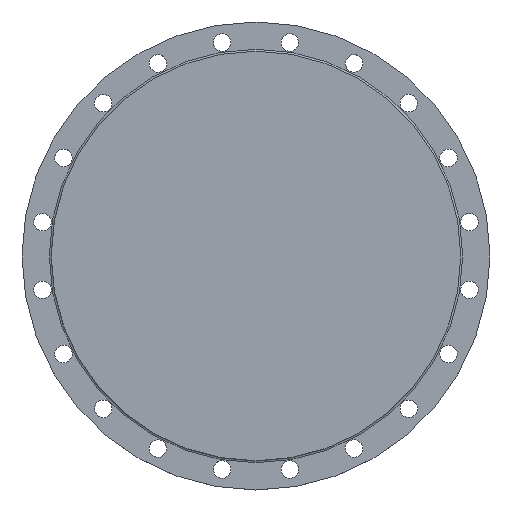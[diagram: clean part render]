
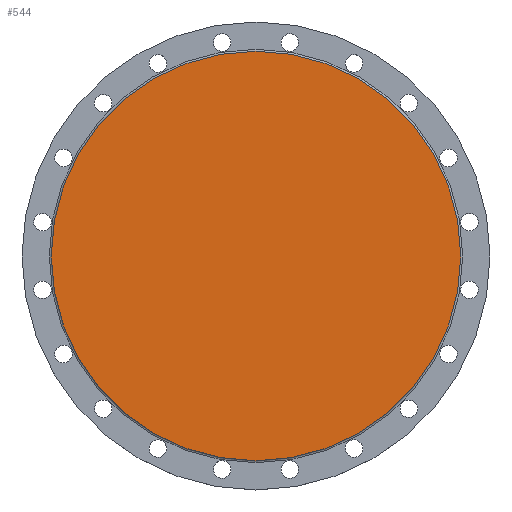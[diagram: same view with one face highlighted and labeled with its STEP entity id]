
A CAD part, top view. The second image highlights one B-rep face of the part: STEP entity #544.
In plain terms, the highlighted planar face has unit normal (0, 0, 1).
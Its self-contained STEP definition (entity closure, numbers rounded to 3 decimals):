
#120=PLANE('',#638);
#145=FACE_OUTER_BOUND('',#191,.T.);
#191=EDGE_LOOP('',(#496,#497));
#215=CIRCLE('',#569,315.);
#216=CIRCLE('',#570,315.);
#264=VERTEX_POINT('',#816);
#265=VERTEX_POINT('',#818);
#312=EDGE_CURVE('',#265,#264,#215,.T.);
#313=EDGE_CURVE('',#264,#265,#216,.T.);
#496=ORIENTED_EDGE('',*,*,#312,.T.);
#497=ORIENTED_EDGE('',*,*,#313,.T.);
#544=ADVANCED_FACE('',(#145),#120,.T.);
#569=AXIS2_PLACEMENT_3D('',#819,#648,#649);
#570=AXIS2_PLACEMENT_3D('',#820,#650,#651);
#638=AXIS2_PLACEMENT_3D('',#953,#807,#808);
#648=DIRECTION('center_axis',(0.,0.,1.));
#649=DIRECTION('ref_axis',(-1.,0.,0.));
#650=DIRECTION('center_axis',(0.,0.,1.));
#651=DIRECTION('ref_axis',(-1.,0.,0.));
#807=DIRECTION('center_axis',(0.,0.,1.));
#808=DIRECTION('ref_axis',(1.,0.,0.));
#816=CARTESIAN_POINT('',(-315.,0.,26.));
#818=CARTESIAN_POINT('',(315.,0.,26.));
#819=CARTESIAN_POINT('Origin',(0.,0.,26.));
#820=CARTESIAN_POINT('Origin',(0.,0.,26.));
#953=CARTESIAN_POINT('Origin',(0.,0.,26.));
